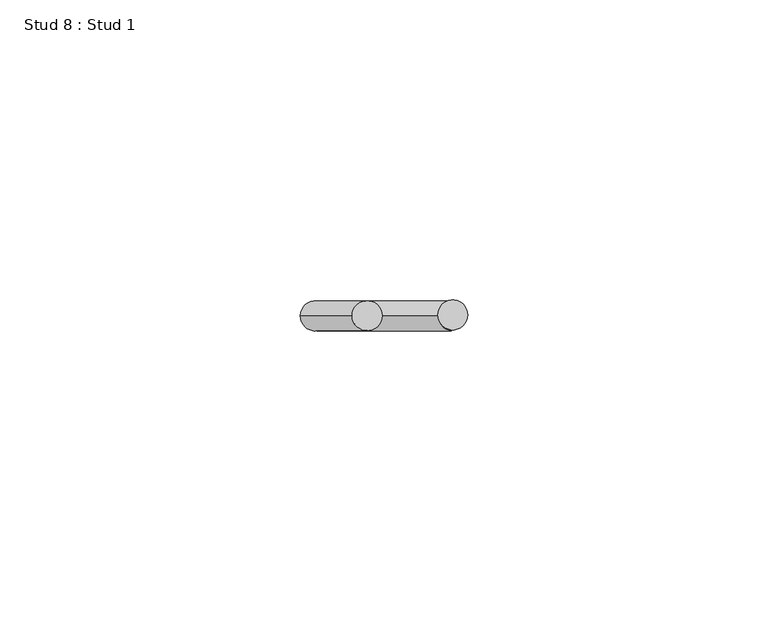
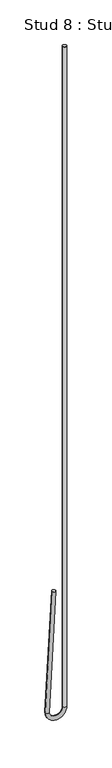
"""IFC4 building model written with IfcOpenShell, lengths in millimetres: proxy geometry, Stud 8 : Stud 1."""

from ifc_helpers import new_model, si_unit, point, frame, origin, place, context, project, spatial, circle_curve, ellipse_curve, trimmed, source, transform, mapped, element, save
from ifc_brep_helpers import plane_surface, cylinder_surface, revolved_surface, advanced_brep


def stud_8_stud_1_bdf7d431(model_context):
    return source(origin(), model_context, "Body", "AdvancedBrep", [
        advanced_brep(
        [(-10978.2326538, 10839.5191481, 3640.800192), (-10973.2395061, 10839.5191481, 3640.5385122), (-10986.8733201, 10839.5191481, 3475.9264558), (-10981.8801725, 10839.5191481, 3475.664776), (-10963.9714562, 10839.5191481, 3475.7956159), (-10958.9714562, 10839.5191481, 3475.7956159), (-10958.9714562, 10839.5191481, 4390.1956159), (-10963.9714562, 10839.5191481, 4390.1956159)],
        [
            (0, 1, circle_curve(frame((-10975.7360799, 10839.5191481, 3640.6693521), z_axis=(0.05233595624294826, 0.0, 0.9986295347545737), x_axis=(0.9986295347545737, 0.0, -0.05233595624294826)), 2.5)),
            (1, 0, circle_curve(frame((-10975.7360799, 10839.5191481, 3640.6693521), z_axis=(0.05233595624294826, 0.0, 0.9986295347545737), x_axis=(0.9986295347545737, 0.0, -0.05233595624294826)), 2.5)),
            (0, 2),
            (2, 3, circle_curve(frame((-10984.3767463, 10839.5191481, 3475.7956159), z_axis=(0.05233595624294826, 0.0, 0.9986295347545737), x_axis=(0.9986295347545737, 0.0, -0.05233595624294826)), 2.5)),
            (3, 1),
            (3, 2, circle_curve(frame((-10984.3767463, 10839.5191481, 3475.7956159), z_axis=(0.05233595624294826, 0.0, 0.9986295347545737), x_axis=(0.9986295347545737, 0.0, -0.05233595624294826)), 2.5)),
            (4, 3, circle_curve(frame((-10972.9241013, 10839.5191481, 3475.7956159), z_axis=(0.0, 1.0, 0.0), x_axis=(-1.0, 0.0, 0.0)), 8.952645)),
            (2, 5, circle_curve(frame((-10972.9241013, 10839.5191481, 3475.7956159), z_axis=(0.0, -1.0, 0.0), x_axis=(-1.0, 0.0, 0.0)), 13.952645)),
            (5, 4, circle_curve(frame((-10961.4714562, 10839.5191481, 3475.7956159), z_axis=(0.0, 0.0, -1.0), x_axis=(-1.0, 0.0, 0.0)), 2.5)),
            (4, 5, circle_curve(frame((-10961.4714562, 10839.5191481, 3475.7956159), z_axis=(0.0, 0.0, -1.0), x_axis=(-1.0, 0.0, 0.0)), 2.5)),
            (6, 7, circle_curve(frame((-10961.4714562, 10839.5191481, 4390.1956159), z_axis=(0.0, 0.0, 1.0), x_axis=(-1.0, 0.0, 0.0)), 2.5)),
            (7, 6, circle_curve(frame((-10961.4714562, 10839.5191481, 4390.1956159), z_axis=(0.0, 0.0, 1.0), x_axis=(-1.0, 0.0, 0.0)), 2.5)),
            (5, 6),
            (7, 4),
        ],
        [
            plane_surface(frame((-10975.7360799, 11433.2441481, 3640.6693521), z_axis=(0.05233595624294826, 0.0, 0.9986295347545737), x_axis=(0.0, -1.0, 0.0))),
            cylinder_surface(frame((-10975.7360799, 10839.5191481, 3640.6693521), z_axis=(0.05233595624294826, 0.0, 0.9986295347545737), x_axis=(0.9986295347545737, 0.0, -0.05233595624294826)), 2.5),
            revolved_surface(trimmed(ellipse_curve(frame((-10984.3767463, 10839.5191481, 3475.7956159), z_axis=(0.0, 0.0, 1.0), x_axis=(1.0, 0.0, 0.0)), 2.5, 2.5), [point((-10986.8767463, 10839.5191481, 3475.7956159))], [point((-10981.8767463, 10839.5191481, 3475.7956159))], True, "CARTESIAN"), (-10972.9241013, 11433.2441481, 3475.7956159), (0.0, -1.0, 0.0)),
            revolved_surface(trimmed(ellipse_curve(frame((-10984.3767463, 10839.5191481, 3475.7956159), z_axis=(0.0, 0.0, 1.0), x_axis=(1.0, 0.0, 0.0)), 2.5, 2.5), [point((-10981.8767463, 10839.5191481, 3475.7956159))], [point((-10986.8767463, 10839.5191481, 3475.7956159))], True, "CARTESIAN"), (-10972.9241013, 11433.2441481, 3475.7956159), (0.0, -1.0, 0.0)),
            plane_surface(frame((-10961.4714562, 11433.2441481, 4390.1956159), z_axis=(0.0, 0.0, 1.0), x_axis=(0.0, -1.0, 0.0))),
            cylinder_surface(frame((-10961.4714562, 10839.5191481, 3475.7956159), z_axis=(0.0, 0.0, -1.0), x_axis=(-1.0, 0.0, 0.0)), 2.5),
        ],
        [
            (0, [[1, 2]]),
            (1, [[-1, 3, 4, 5]]),
            (1, [[-2, -5, 6, -3]]),
            (2, [[7, -4, 8, 9]]),
            (3, [[-8, -6, -7, 10]]),
            (4, [[11, 12]]),
            (5, [[-9, 13, -12, 14]]),
            (5, [[-10, -14, -11, -13]]),
        ],
    ),
    ])


if __name__ == "__main__":
    model = new_model("IFC4")
    model_context = context("Model", 3, world=origin())
    ifc_project = project(units=[si_unit("LENGTHUNIT", "METRE", prefix="MILLI")], contexts=[model_context])
    site = spatial("IfcSite", under=ifc_project)
    building = spatial("IfcBuilding", under=site)
    placement = place(None, origin())
    stud_8_stud_1_shape = stud_8_stud_1_bdf7d431(model_context)
    element("IfcBuildingElementProxy", 1, Name="Stud 8 : Stud 1", ObjectType="Stud 8 : Stud 1", at=placement, inside=building, context=model_context, shape_type="MappedRepresentation", body=[
        mapped(stud_8_stud_1_shape, transform((0.0, 0.0, 0.0), x_axis=(1.0, 0.0, 0.0), y_axis=(0.0, 1.0, 0.0), z_axis=(0.0, 0.0, 1.0))),
    ])
    save(model, "model.ifc")
